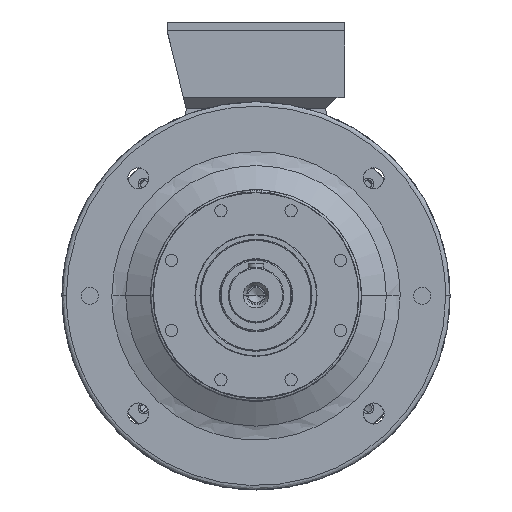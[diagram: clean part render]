
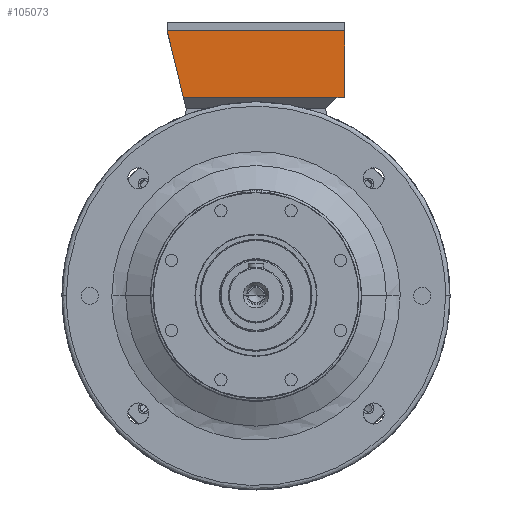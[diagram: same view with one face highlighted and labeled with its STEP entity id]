
A CAD part, top view. The second image highlights one B-rep face of the part: STEP entity #105073.
In plain terms, the highlighted planar face has unit normal (0, 0, 1).
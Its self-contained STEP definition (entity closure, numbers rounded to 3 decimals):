
#21151 = AXIS2_PLACEMENT_3D ( 'NONE', #110286, #110246, #110329 ) ;
#23990 = EDGE_LOOP ( 'NONE', ( #55914, #55932, #55938, #55902, #55886 ) ) ;
#27215 = VERTEX_POINT ( 'NONE', #67576 ) ;
#27220 = VERTEX_POINT ( 'NONE', #67583 ) ;
#27241 = VERTEX_POINT ( 'NONE', #67560 ) ;
#27254 = VERTEX_POINT ( 'NONE', #67585 ) ;
#27331 = VERTEX_POINT ( 'NONE', #67592 ) ;
#40518 = EDGE_CURVE ( 'NONE', #27241, #27331, #97127, .T. ) ;
#40560 = EDGE_CURVE ( 'NONE', #27215, #27220, #97070, .T. ) ;
#40586 = EDGE_CURVE ( 'NONE', #27331, #27220, #96972, .T. ) ;
#40608 = EDGE_CURVE ( 'NONE', #27241, #27254, #97020, .T. ) ;
#40689 = EDGE_CURVE ( 'NONE', #27254, #27215, #94985, .T. ) ;
#48238 = DIRECTION ( 'NONE',  ( -1., 0., 0. ) ) ;
#48245 = CARTESIAN_POINT ( 'NONE',  ( -63., 0., 150. ) ) ;
#48278 = CARTESIAN_POINT ( 'NONE',  ( -80., 70., 150. ) ) ;
#48285 = DIRECTION ( 'NONE',  ( -1., 0., 0. ) ) ;
#48318 = CARTESIAN_POINT ( 'NONE',  ( -80., 10., 150. ) ) ;
#48376 = DIRECTION ( 'NONE',  ( 0., -1., 0. ) ) ;
#48385 = CARTESIAN_POINT ( 'NONE',  ( 80., 70., 150. ) ) ;
#48404 = DIRECTION ( 'NONE',  ( 0.236, -0.972, 0. ) ) ;
#48462 = DIRECTION ( 'NONE',  ( -1., 0., 0. ) ) ;
#48492 = CARTESIAN_POINT ( 'NONE',  ( -80., 10., 150. ) ) ;
#55886 = ORIENTED_EDGE ( 'NONE', *, *, #40689, .F. ) ;
#55902 = ORIENTED_EDGE ( 'NONE', *, *, #40560, .F. ) ;
#55914 = ORIENTED_EDGE ( 'NONE', *, *, #40608, .F. ) ;
#55932 = ORIENTED_EDGE ( 'NONE', *, *, #40518, .T. ) ;
#55938 = ORIENTED_EDGE ( 'NONE', *, *, #40586, .T. ) ;
#67560 = CARTESIAN_POINT ( 'NONE',  ( 80., 70., 150. ) ) ;
#67576 = CARTESIAN_POINT ( 'NONE',  ( 73., 10., 150. ) ) ;
#67583 = CARTESIAN_POINT ( 'NONE',  ( -65.429, 10., 150. ) ) ;
#67585 = CARTESIAN_POINT ( 'NONE',  ( 80., 10., 150. ) ) ;
#67592 = CARTESIAN_POINT ( 'NONE',  ( -80., 70., 150. ) ) ;
#94880 = FACE_OUTER_BOUND ( 'NONE', #23990, .T. ) ;
#94985 = LINE ( 'NONE', #48492, #95351 ) ;
#95351 = VECTOR ( 'NONE', #48462, 1000. ) ;
#96969 = VECTOR ( 'NONE', #48238, 1000. ) ;
#96972 = LINE ( 'NONE', #48245, #96975 ) ;
#96975 = VECTOR ( 'NONE', #48404, 1000. ) ;
#97020 = LINE ( 'NONE', #48385, #97023 ) ;
#97023 = VECTOR ( 'NONE', #48376, 1000. ) ;
#97070 = LINE ( 'NONE', #48318, #96969 ) ;
#97080 = VECTOR ( 'NONE', #48285, 1000. ) ;
#97127 = LINE ( 'NONE', #48278, #97080 ) ;
#105073 = ADVANCED_FACE ( 'NONE', ( #94880 ), #110320, .F. ) ;
#110246 = DIRECTION ( 'NONE',  ( 0., 0., -1. ) ) ;
#110286 = CARTESIAN_POINT ( 'NONE',  ( -80., 70., 150. ) ) ;
#110320 = PLANE ( 'NONE',  #21151 ) ;
#110329 = DIRECTION ( 'NONE',  ( -1., 0., 0. ) ) ;
